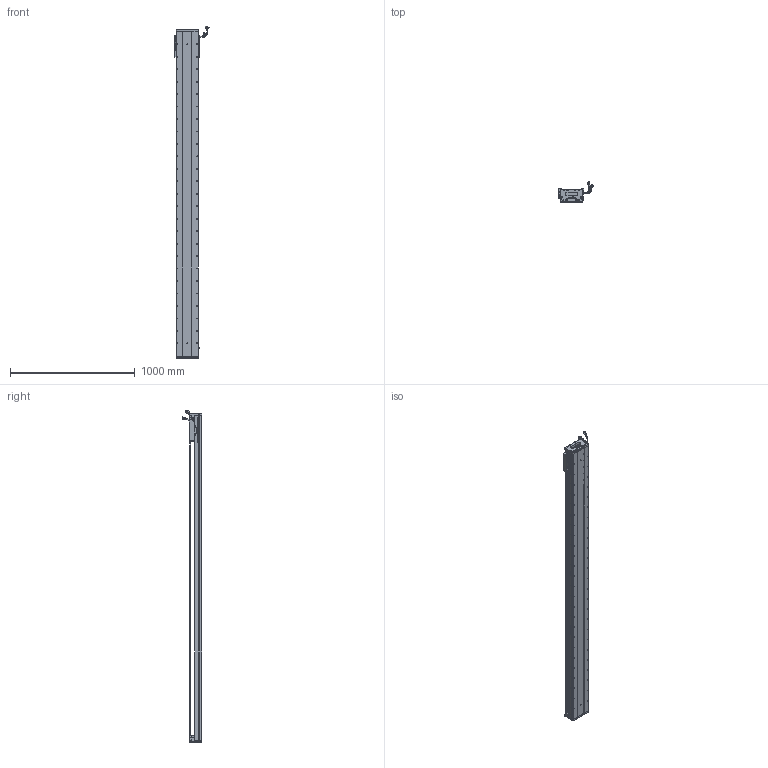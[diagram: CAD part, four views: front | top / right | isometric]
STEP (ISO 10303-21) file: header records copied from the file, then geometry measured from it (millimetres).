
FILE_DESCRIPTION (( 'STEP AP203' ), '1' );
FILE_NAME ('Z2-RY170D-1-L500-B-K.SLDASM_2350.step', '2021-05-17T09:10:37', ( '盈信电脑' ), ( '东莞市道滘镇水果街19号' ), 'SwSTEP 2.0', 'SolidWorks 2016', '' );
FILE_SCHEMA (( 'CONFIG_CONTROL_DESIGN' ));
Length unit declared in the file: millimetre
Products named in the file (36): SHIELDPLATE; SCREW-M1.6-3; LABEL-Part-1; SCALE-Part-2; SEAL-Part-1; HARNESS; SCREW-M1.7; Z2-RY170臏賑輸(21遴); SCREW-M1.6-2; Z-RY170詩湍狟揤裔; SCREW-M1.6; SCREW-M1.6-1; Z-170詩湍傷裔啣; 榋妏寠巭燃_暯_M2_2; 170-Z-臏賑輸盄裔(21遴); SEAL; RY170直线电机感应器672光电感应片; SCALE-Part-1; Z2-RY170D-1-L500-B-K.SLDASM_2350; 140蚥薯蝶輸; HARNESS-Part-1; HARNESS-Part-2; PBU_SHEET; 覜茼ん672; Z2-RY170-L500詩湍145mm遵_2350; PSLH080_PSLF2; SCALE; SCREW-M1.7-1; Z2-RY170-L500耀郪菁釱_2350; COVER-Part-1; LABEL; 140雄赽晤鎢ん堤盄; HOLDER0; 080黍杅芛假蚾釱21遴; COVER; Z-RY170詩湍奻揤裔
Assembly tree (41 placements, depth 4):
  Z2-RY170D-1-L500-B-K.SLDASM_2350
    Z2-RY170-L500耀郪菁釱_2350
    RY170直线电机感应器672光电感应片
    Z2-RY170臏賑輸(21遴)
    覜茼ん672  x3
    PSLH080_PSLF2
      SCALE
        SCALE-Part-1
        SCALE-Part-2
      HARNESS
        HARNESS-Part-1
        HARNESS-Part-2
      LABEL
        LABEL-Part-1
      COVER
        COVER-Part-1
      SEAL
        SEAL-Part-1
      榋妏寠巭燃_暯_M2_2
      SHIELDPLATE
      SCREW-M1.7
      SCREW-M1.7-1
      PBU_SHEET
      SCREW-M1.6
      SCREW-M1.6-1
      SCREW-M1.6-2
      SCREW-M1.6-3
      HOLDER0
    080黍杅芛假蚾釱21遴
    Z2-RY170-L500詩湍145mm遵_2350
    Z-170詩湍傷裔啣  x2
    Z-RY170詩湍奻揤裔  x2
    Z-RY170詩湍狟揤裔  x2
    140蚥薯蝶輸  x2
    170-Z-臏賑輸盄裔(21遴)
    140雄赽晤鎢ん堤盄
Bounding box: 275.29 x 158.11 x 2663.72 mm (x, y, z)
Volume: 13012655.2 mm3; surface area: 3224504.8 mm2
Topology: 36 solids, 36 shells, 4042 faces, 11197 edges, 6989 vertices
Faces by surface type: cylinder 2032, plane 1308, cone 580, torus 69, bspline 53
Entity records: 127061 total; most frequent: CARTESIAN_POINT 35474, ORIENTED_EDGE 18838, DIRECTION 17587, EDGE_CURVE 9419, AXIS2_PLACEMENT_3D 6484, VERTEX_POINT 6107, VECTOR 4619, LINE 4619
